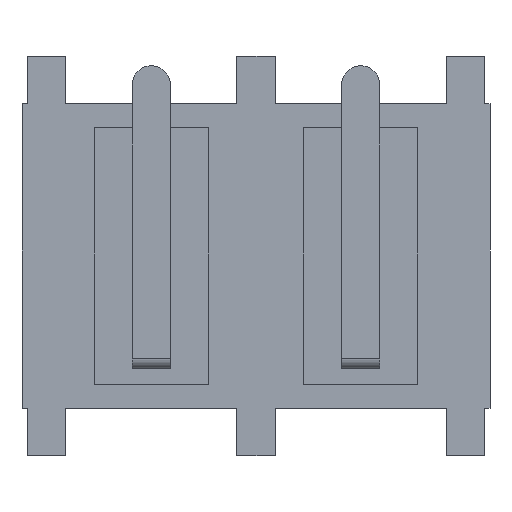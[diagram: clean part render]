
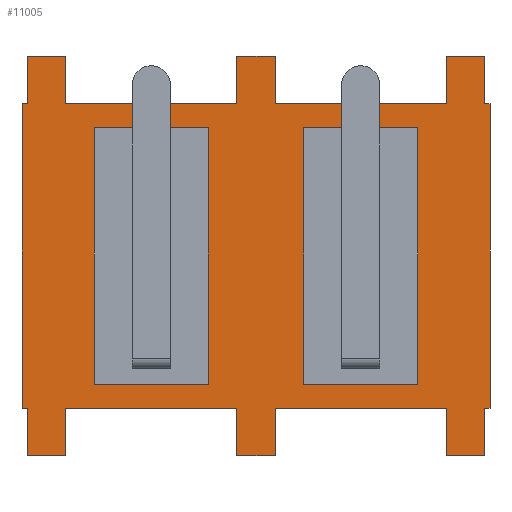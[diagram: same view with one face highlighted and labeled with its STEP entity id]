
A CAD part, front view. The second image highlights one B-rep face of the part: STEP entity #11005.
In plain terms, the highlighted planar face has unit normal (0, -1, 0).
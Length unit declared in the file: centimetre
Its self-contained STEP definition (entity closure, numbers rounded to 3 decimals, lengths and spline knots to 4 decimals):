
#749=VECTOR('',#12056,1.);
#751=VECTOR('',#12059,1.);
#753=VECTOR('',#12062,1.);
#755=VECTOR('',#12065,1.);
#762=VECTOR('',#12076,1.);
#775=VECTOR('',#12094,1.);
#782=VECTOR('',#12104,1.);
#784=VECTOR('',#12107,1.);
#791=VECTOR('',#12115,1.);
#805=VECTOR('',#12137,1.);
#807=VECTOR('',#12140,1.);
#825=VECTOR('',#12178,1.);
#829=VECTOR('',#12187,1.);
#835=VECTOR('',#12196,1.);
#849=VECTOR('',#12215,1.);
#858=VECTOR('',#12237,1.);
#866=VECTOR('',#12255,1.);
#926=VECTOR('',#12431,1.);
#928=VECTOR('',#12434,1.);
#930=VECTOR('',#12437,1.);
#932=VECTOR('',#12440,1.);
#954=VECTOR('',#12467,1.);
#964=VECTOR('',#12482,1.);
#972=VECTOR('',#12493,1.);
#982=VECTOR('',#12506,1.);
#999=VECTOR('',#12541,1.);
#1007=VECTOR('',#12559,1.);
#1393=VECTOR('',#13073,1.);
#1402=VECTOR('',#13083,1.);
#1408=VECTOR('',#13095,1.);
#2040=LINE('',#14248,#749);
#2042=LINE('',#14252,#751);
#2044=LINE('',#14256,#753);
#2046=LINE('',#14260,#755);
#2053=LINE('',#14275,#762);
#2066=LINE('',#14300,#775);
#2073=LINE('',#14316,#782);
#2075=LINE('',#14321,#784);
#2082=LINE('',#14335,#791);
#2096=LINE('',#14366,#805);
#2098=LINE('',#14371,#807);
#2116=LINE('',#14418,#825);
#2120=LINE('',#14425,#829);
#2126=LINE('',#14439,#835);
#2140=LINE('',#14473,#849);
#2149=LINE('',#14500,#858);
#2157=LINE('',#14516,#866);
#2217=LINE('',#14766,#926);
#2219=LINE('',#14770,#928);
#2221=LINE('',#14774,#930);
#2223=LINE('',#14778,#932);
#2245=LINE('',#14823,#954);
#2255=LINE('',#14843,#964);
#2263=LINE('',#14861,#972);
#2273=LINE('',#14885,#982);
#2290=LINE('',#14931,#999);
#2298=LINE('',#14947,#1007);
#2684=LINE('',#16411,#1393);
#2693=LINE('',#16429,#1402);
#2699=LINE('',#16441,#1408);
#3324=VERTEX_POINT('',#14247);
#3325=VERTEX_POINT('',#14249);
#3326=VERTEX_POINT('',#14253);
#3327=VERTEX_POINT('',#14257);
#3329=VERTEX_POINT('',#14270);
#3331=VERTEX_POINT('',#14274);
#3338=VERTEX_POINT('',#14299);
#3339=VERTEX_POINT('',#14301);
#3345=VERTEX_POINT('',#14315);
#3346=VERTEX_POINT('',#14319);
#3348=VERTEX_POINT('',#14322);
#3354=VERTEX_POINT('',#14336);
#3363=VERTEX_POINT('',#14365);
#3365=VERTEX_POINT('',#14370);
#3380=VERTEX_POINT('',#14415);
#3381=VERTEX_POINT('',#14417);
#3387=VERTEX_POINT('',#14438);
#3388=VERTEX_POINT('',#14440);
#3395=VERTEX_POINT('',#14454);
#3404=VERTEX_POINT('',#14472);
#3407=VERTEX_POINT('',#14483);
#3409=VERTEX_POINT('',#14485);
#3496=VERTEX_POINT('',#14765);
#3497=VERTEX_POINT('',#14767);
#3498=VERTEX_POINT('',#14771);
#3499=VERTEX_POINT('',#14775);
#3517=VERTEX_POINT('',#14822);
#3523=VERTEX_POINT('',#14844);
#3530=VERTEX_POINT('',#14860);
#3532=VERTEX_POINT('',#14864);
#3542=VERTEX_POINT('',#14884);
#3543=VERTEX_POINT('',#14886);
#3558=VERTEX_POINT('',#14922);
#3559=VERTEX_POINT('',#14923);
#3888=VERTEX_POINT('',#16412);
#3889=VERTEX_POINT('',#16413);
#4524=EDGE_CURVE('',#3325,#3324,#2040,.T.);
#4526=EDGE_CURVE('',#3326,#3325,#2042,.T.);
#4528=EDGE_CURVE('',#3327,#3326,#2044,.T.);
#4530=EDGE_CURVE('',#3324,#3327,#2046,.T.);
#4537=EDGE_CURVE('',#3331,#3329,#2053,.T.);
#4550=EDGE_CURVE('',#3339,#3338,#2066,.T.);
#4558=EDGE_CURVE('',#3338,#3345,#2073,.T.);
#4560=EDGE_CURVE('',#3348,#3346,#2075,.T.);
#4567=EDGE_CURVE('',#3354,#3348,#2082,.T.);
#4583=EDGE_CURVE('',#3363,#3346,#2096,.T.);
#4585=EDGE_CURVE('',#3345,#3365,#2098,.T.);
#4610=EDGE_CURVE('',#3381,#3380,#2116,.T.);
#4611=EDGE_CURVE('',#3381,#3329,#2073,.T.);
#4615=EDGE_CURVE('',#3365,#3354,#2120,.T.);
#4616=EDGE_CURVE('',#3363,#3380,#2120,.T.);
#4623=EDGE_CURVE('',#3331,#3387,#2126,.T.);
#4624=EDGE_CURVE('',#3388,#3339,#2126,.T.);
#4641=EDGE_CURVE('',#3395,#3404,#2140,.T.);
#4647=EDGE_CURVE('',#3409,#3407,#2140,.T.);
#4657=EDGE_CURVE('',#3409,#3387,#2149,.T.);
#4665=EDGE_CURVE('',#3404,#3388,#2157,.T.);
#4767=EDGE_CURVE('',#3497,#3496,#2217,.T.);
#4769=EDGE_CURVE('',#3498,#3497,#2219,.T.);
#4771=EDGE_CURVE('',#3499,#3498,#2221,.T.);
#4773=EDGE_CURVE('',#3496,#3499,#2223,.T.);
#4797=EDGE_CURVE('',#3517,#3407,#2245,.T.);
#4807=EDGE_CURVE('',#3523,#3395,#2255,.T.);
#4816=EDGE_CURVE('',#3517,#3530,#2263,.T.);
#4818=EDGE_CURVE('',#3532,#3523,#2263,.T.);
#4829=EDGE_CURVE('',#3543,#3542,#2273,.T.);
#4850=EDGE_CURVE('',#3559,#3558,#2273,.T.);
#4855=EDGE_CURVE('',#3543,#3530,#2290,.T.);
#4863=EDGE_CURVE('',#3558,#3532,#2298,.T.);
#5353=EDGE_CURVE('',#3888,#3889,#2684,.T.);
#5362=EDGE_CURVE('',#3888,#3542,#2693,.T.);
#5368=EDGE_CURVE('',#3889,#3559,#2699,.T.);
#8019=ORIENTED_EDGE('',*,*,#4524,.T.);
#8020=ORIENTED_EDGE('',*,*,#4530,.T.);
#8021=ORIENTED_EDGE('',*,*,#4528,.T.);
#8022=ORIENTED_EDGE('',*,*,#4526,.T.);
#8023=ORIENTED_EDGE('',*,*,#4767,.T.);
#8024=ORIENTED_EDGE('',*,*,#4773,.T.);
#8025=ORIENTED_EDGE('',*,*,#4771,.T.);
#8026=ORIENTED_EDGE('',*,*,#4769,.T.);
#8027=ORIENTED_EDGE('',*,*,#5368,.T.);
#8028=ORIENTED_EDGE('',*,*,#4850,.T.);
#8029=ORIENTED_EDGE('',*,*,#4863,.T.);
#8030=ORIENTED_EDGE('',*,*,#4818,.T.);
#8031=ORIENTED_EDGE('',*,*,#4807,.T.);
#8032=ORIENTED_EDGE('',*,*,#4641,.T.);
#8033=ORIENTED_EDGE('',*,*,#4665,.T.);
#8034=ORIENTED_EDGE('',*,*,#4624,.T.);
#8035=ORIENTED_EDGE('',*,*,#4550,.T.);
#8036=ORIENTED_EDGE('',*,*,#4558,.T.);
#8037=ORIENTED_EDGE('',*,*,#4585,.T.);
#8038=ORIENTED_EDGE('',*,*,#4615,.T.);
#8039=ORIENTED_EDGE('',*,*,#4567,.T.);
#8040=ORIENTED_EDGE('',*,*,#4560,.T.);
#8041=ORIENTED_EDGE('',*,*,#4583,.F.);
#8042=ORIENTED_EDGE('',*,*,#4616,.T.);
#8043=ORIENTED_EDGE('',*,*,#4610,.F.);
#8044=ORIENTED_EDGE('',*,*,#4611,.T.);
#8045=ORIENTED_EDGE('',*,*,#4537,.F.);
#8046=ORIENTED_EDGE('',*,*,#4623,.T.);
#8047=ORIENTED_EDGE('',*,*,#4657,.F.);
#8048=ORIENTED_EDGE('',*,*,#4647,.T.);
#8049=ORIENTED_EDGE('',*,*,#4797,.F.);
#8050=ORIENTED_EDGE('',*,*,#4816,.T.);
#8051=ORIENTED_EDGE('',*,*,#4855,.F.);
#8052=ORIENTED_EDGE('',*,*,#4829,.T.);
#8053=ORIENTED_EDGE('',*,*,#5362,.F.);
#8054=ORIENTED_EDGE('',*,*,#5353,.T.);
#9692=EDGE_LOOP('',(#8019,#8020,#8021,#8022));
#9693=EDGE_LOOP('',(#8023,#8024,#8025,#8026));
#9694=EDGE_LOOP('',(#8027,#8028,#8029,#8030,#8031,#8032,#8033,#8034,#8035,
#8036,#8037,#8038,#8039,#8040,#8041,#8042,#8043,#8044,#8045,#8046,#8047,
#8048,#8049,#8050,#8051,#8052,#8053,#8054));
#10370=FACE_BOUND('',#9692,.T.);
#10371=FACE_BOUND('',#9693,.T.);
#10372=FACE_BOUND('',#9694,.T.);
#11005=ADVANCED_FACE('',(#10370,#10371,#10372),#11519,.T.);
#11519=PLANE('',#18513);
#12056=DIRECTION('',(-1.,0.,0.));
#12059=DIRECTION('',(0.,0.,-1.));
#12062=DIRECTION('',(1.,0.,0.));
#12065=DIRECTION('',(0.,0.,1.));
#12076=DIRECTION('',(1.,0.,0.));
#12094=DIRECTION('',(1.,0.,0.));
#12104=DIRECTION('',(0.,0.,-1.));
#12107=DIRECTION('',(0.,0.,1.));
#12115=DIRECTION('',(1.,0.,0.));
#12137=DIRECTION('',(1.,0.,0.));
#12140=DIRECTION('',(1.,0.,0.));
#12178=DIRECTION('',(1.,0.,0.));
#12187=DIRECTION('',(0.,0.,1.));
#12196=DIRECTION('',(0.,0.,1.));
#12215=DIRECTION('',(0.,0.,-1.));
#12237=DIRECTION('',(1.,0.,0.));
#12255=DIRECTION('',(1.,0.,0.));
#12431=DIRECTION('',(-1.,0.,0.));
#12434=DIRECTION('',(0.,0.,-1.));
#12437=DIRECTION('',(1.,0.,0.));
#12440=DIRECTION('',(0.,0.,1.));
#12467=DIRECTION('',(1.,0.,0.));
#12482=DIRECTION('',(1.,0.,0.));
#12493=DIRECTION('',(0.,0.,1.));
#12506=DIRECTION('',(0.,0.,-1.));
#12541=DIRECTION('',(1.,0.,0.));
#12559=DIRECTION('',(1.,0.,0.));
#13073=DIRECTION('',(0.,0.,-1.));
#13083=DIRECTION('',(1.,0.,0.));
#13095=DIRECTION('',(1.,0.,0.));
#13096=DIRECTION('',(0.,-1.,0.));
#14247=CARTESIAN_POINT('',(1.48,0.,-0.675));
#14248=CARTESIAN_POINT('',(1.555,0.,-0.675));
#14249=CARTESIAN_POINT('',(2.08,0.,-0.675));
#14252=CARTESIAN_POINT('',(2.08,0.,0.));
#14253=CARTESIAN_POINT('',(2.08,0.,0.675));
#14256=CARTESIAN_POINT('',(1.555,0.,0.675));
#14257=CARTESIAN_POINT('',(1.48,0.,0.675));
#14260=CARTESIAN_POINT('',(1.48,0.,0.));
#14270=CARTESIAN_POINT('',(2.23,0.,0.8));
#14274=CARTESIAN_POINT('',(1.33,0.,0.8));
#14275=CARTESIAN_POINT('',(1.33,0.,0.8));
#14299=CARTESIAN_POINT('',(2.23,0.,-0.8));
#14300=CARTESIAN_POINT('',(1.33,0.,-0.8));
#14301=CARTESIAN_POINT('',(1.33,0.,-0.8));
#14315=CARTESIAN_POINT('',(2.23,0.,-1.05));
#14316=CARTESIAN_POINT('',(2.23,0.,1.05));
#14319=CARTESIAN_POINT('',(2.46,0.,0.8));
#14321=CARTESIAN_POINT('',(2.46,0.,0.8));
#14322=CARTESIAN_POINT('',(2.46,0.,-0.8));
#14335=CARTESIAN_POINT('',(2.43,0.,-0.8));
#14336=CARTESIAN_POINT('',(2.43,0.,-0.8));
#14365=CARTESIAN_POINT('',(2.43,0.,0.8));
#14366=CARTESIAN_POINT('',(2.43,0.,0.8));
#14370=CARTESIAN_POINT('',(2.43,0.,-1.05));
#14371=CARTESIAN_POINT('',(2.23,0.,-1.05));
#14415=CARTESIAN_POINT('',(2.43,0.,1.05));
#14417=CARTESIAN_POINT('',(2.23,0.,1.05));
#14418=CARTESIAN_POINT('',(2.23,0.,1.05));
#14425=CARTESIAN_POINT('',(2.43,0.,1.05));
#14438=CARTESIAN_POINT('',(1.33,0.,1.05));
#14439=CARTESIAN_POINT('',(1.33,0.,1.05));
#14440=CARTESIAN_POINT('',(1.33,0.,-1.05));
#14454=CARTESIAN_POINT('',(1.13,0.,-0.8));
#14472=CARTESIAN_POINT('',(1.13,0.,-1.05));
#14473=CARTESIAN_POINT('',(1.13,0.,1.05));
#14483=CARTESIAN_POINT('',(1.13,0.,0.8));
#14485=CARTESIAN_POINT('',(1.13,0.,1.05));
#14500=CARTESIAN_POINT('',(1.13,0.,1.05));
#14516=CARTESIAN_POINT('',(1.13,0.,-1.05));
#14765=CARTESIAN_POINT('',(0.38,0.,-0.675));
#14766=CARTESIAN_POINT('',(0.455,0.,-0.675));
#14767=CARTESIAN_POINT('',(0.98,0.,-0.675));
#14770=CARTESIAN_POINT('',(0.98,0.,0.));
#14771=CARTESIAN_POINT('',(0.98,0.,0.675));
#14774=CARTESIAN_POINT('',(0.455,0.,0.675));
#14775=CARTESIAN_POINT('',(0.38,0.,0.675));
#14778=CARTESIAN_POINT('',(0.38,0.,0.));
#14822=CARTESIAN_POINT('',(0.23,0.,0.8));
#14823=CARTESIAN_POINT('',(0.23,0.,0.8));
#14843=CARTESIAN_POINT('',(0.23,0.,-0.8));
#14844=CARTESIAN_POINT('',(0.23,0.,-0.8));
#14860=CARTESIAN_POINT('',(0.23,0.,1.05));
#14861=CARTESIAN_POINT('',(0.23,0.,1.05));
#14864=CARTESIAN_POINT('',(0.23,0.,-1.05));
#14884=CARTESIAN_POINT('',(0.03,0.,0.8));
#14885=CARTESIAN_POINT('',(0.03,0.,1.05));
#14886=CARTESIAN_POINT('',(0.03,0.,1.05));
#14922=CARTESIAN_POINT('',(0.03,0.,-1.05));
#14923=CARTESIAN_POINT('',(0.03,0.,-0.8));
#14931=CARTESIAN_POINT('',(0.03,0.,1.05));
#14947=CARTESIAN_POINT('',(0.03,0.,-1.05));
#16411=CARTESIAN_POINT('',(0.,0.,0.8));
#16412=CARTESIAN_POINT('',(0.,0.,0.8));
#16413=CARTESIAN_POINT('',(0.,0.,-0.8));
#16429=CARTESIAN_POINT('',(0.,0.,0.8));
#16441=CARTESIAN_POINT('',(0.,0.,-0.8));
#16442=CARTESIAN_POINT('',(0.,0.,0.));
#18513=AXIS2_PLACEMENT_3D('',#16442,#13096,$);
